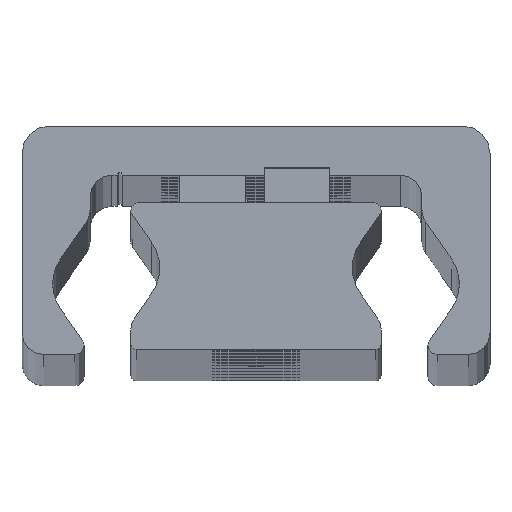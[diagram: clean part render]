
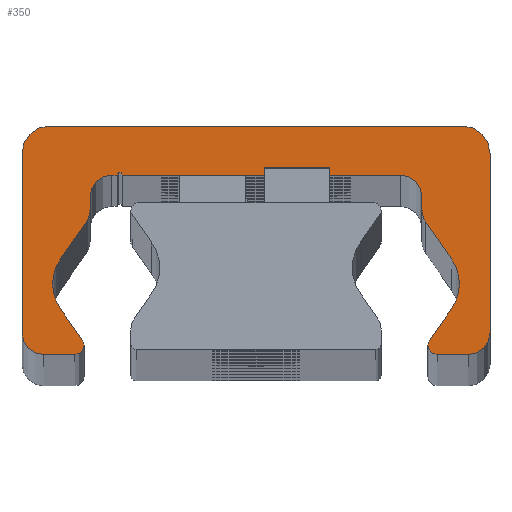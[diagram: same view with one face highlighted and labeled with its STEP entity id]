
A CAD part, top view. The second image highlights one B-rep face of the part: STEP entity #350.
In plain terms, the highlighted planar face has unit normal (0, 0, 1).
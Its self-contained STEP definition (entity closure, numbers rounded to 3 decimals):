
#350=ADVANCED_FACE('',(#1012),#1013,.T.);
#1012=FACE_OUTER_BOUND('',#1675,.T.);
#1013=PLANE('',#1676);
#1675=EDGE_LOOP('',(#3890,#3891,#3892,#3893,#3894,#3895,#3896,#3897,#3898,#3899,#3900,#3901,#3902,#3903,#3904,#3905,#3906,#3907,#3908,#3909,#3910,#3911,#3912,#3913,#3914,#3915,#3916,#3917,#3918,#3919));
#1676=AXIS2_PLACEMENT_3D('',#3920,#3921,#3922);
#3890=ORIENTED_EDGE('',*,*,#4349,.F.);
#3891=ORIENTED_EDGE('',*,*,#4662,.F.);
#3892=ORIENTED_EDGE('',*,*,#4335,.F.);
#3893=ORIENTED_EDGE('',*,*,#4661,.F.);
#3894=ORIENTED_EDGE('',*,*,#4657,.F.);
#3895=ORIENTED_EDGE('',*,*,#4654,.F.);
#3896=ORIENTED_EDGE('',*,*,#4651,.F.);
#3897=ORIENTED_EDGE('',*,*,#4648,.F.);
#3898=ORIENTED_EDGE('',*,*,#4645,.F.);
#3899=ORIENTED_EDGE('',*,*,#4642,.F.);
#3900=ORIENTED_EDGE('',*,*,#4639,.F.);
#3901=ORIENTED_EDGE('',*,*,#4636,.F.);
#3902=ORIENTED_EDGE('',*,*,#4633,.F.);
#3903=ORIENTED_EDGE('',*,*,#4630,.F.);
#3904=ORIENTED_EDGE('',*,*,#4341,.F.);
#3905=ORIENTED_EDGE('',*,*,#4628,.F.);
#3906=ORIENTED_EDGE('',*,*,#4343,.F.);
#3907=ORIENTED_EDGE('',*,*,#4627,.F.);
#3908=ORIENTED_EDGE('',*,*,#4623,.F.);
#3909=ORIENTED_EDGE('',*,*,#4620,.F.);
#3910=ORIENTED_EDGE('',*,*,#4617,.F.);
#3911=ORIENTED_EDGE('',*,*,#4614,.F.);
#3912=ORIENTED_EDGE('',*,*,#4611,.F.);
#3913=ORIENTED_EDGE('',*,*,#4608,.F.);
#3914=ORIENTED_EDGE('',*,*,#4605,.F.);
#3915=ORIENTED_EDGE('',*,*,#4602,.F.);
#3916=ORIENTED_EDGE('',*,*,#4599,.F.);
#3917=ORIENTED_EDGE('',*,*,#4596,.F.);
#3918=ORIENTED_EDGE('',*,*,#4593,.F.);
#3919=ORIENTED_EDGE('',*,*,#4590,.F.);
#3920=CARTESIAN_POINT('',(-0.023,14.187,807.0));
#3921=DIRECTION('',(0.0,0.0,1.0));
#3922=DIRECTION('',(1.0,0.0,0.0));
#4335=EDGE_CURVE('',#5266,#5269,#5270,.T.);
#4341=EDGE_CURVE('',#5279,#5275,#5281,.T.);
#4343=EDGE_CURVE('',#5282,#5285,#5286,.T.);
#4349=EDGE_CURVE('',#5295,#5291,#5297,.T.);
#4590=EDGE_CURVE('',#5291,#5684,#5685,.T.);
#4593=EDGE_CURVE('',#5684,#5689,#5690,.T.);
#4596=EDGE_CURVE('',#5689,#5694,#5695,.T.);
#4599=EDGE_CURVE('',#5694,#5699,#5700,.T.);
#4602=EDGE_CURVE('',#5699,#5704,#5705,.T.);
#4605=EDGE_CURVE('',#5704,#5709,#5710,.T.);
#4608=EDGE_CURVE('',#5709,#5714,#5715,.T.);
#4611=EDGE_CURVE('',#5714,#5719,#5720,.T.);
#4614=EDGE_CURVE('',#5719,#5724,#5725,.T.);
#4617=EDGE_CURVE('',#5724,#5729,#5730,.T.);
#4620=EDGE_CURVE('',#5729,#5734,#5735,.T.);
#4623=EDGE_CURVE('',#5734,#5739,#5740,.T.);
#4627=EDGE_CURVE('',#5739,#5282,#5745,.T.);
#4628=EDGE_CURVE('',#5285,#5279,#5746,.T.);
#4630=EDGE_CURVE('',#5275,#5748,#5749,.T.);
#4633=EDGE_CURVE('',#5748,#5753,#5754,.T.);
#4636=EDGE_CURVE('',#5753,#5758,#5759,.T.);
#4639=EDGE_CURVE('',#5758,#5763,#5764,.T.);
#4642=EDGE_CURVE('',#5763,#5768,#5769,.T.);
#4645=EDGE_CURVE('',#5768,#5773,#5774,.T.);
#4648=EDGE_CURVE('',#5773,#5778,#5779,.T.);
#4651=EDGE_CURVE('',#5778,#5783,#5784,.T.);
#4654=EDGE_CURVE('',#5783,#5788,#5789,.T.);
#4657=EDGE_CURVE('',#5788,#5793,#5794,.T.);
#4661=EDGE_CURVE('',#5793,#5266,#5799,.T.);
#4662=EDGE_CURVE('',#5269,#5295,#5800,.T.);
#5266=VERTEX_POINT('',#6590);
#5269=VERTEX_POINT('',#6594);
#5270=CIRCLE('',#6595,0.85);
#5275=VERTEX_POINT('',#6601);
#5279=VERTEX_POINT('',#6606);
#5281=CIRCLE('',#6609,0.85);
#5282=VERTEX_POINT('',#6610);
#5285=VERTEX_POINT('',#6614);
#5286=CIRCLE('',#6615,4.);
#5291=VERTEX_POINT('',#6621);
#5295=VERTEX_POINT('',#6626);
#5297=CIRCLE('',#6629,4.);
#5684=VERTEX_POINT('',#7126);
#5685=CIRCLE('',#7127,4.);
#5689=VERTEX_POINT('',#7132);
#5690=LINE('',#7133,#7134);
#5694=VERTEX_POINT('',#7140);
#5695=CIRCLE('',#7141,2.);
#5699=VERTEX_POINT('',#7146);
#5700=LINE('',#7147,#7148);
#5704=VERTEX_POINT('',#7154);
#5705=CIRCLE('',#7155,2.0);
#5709=VERTEX_POINT('',#7160);
#5710=LINE('',#7161,#7162);
#5714=VERTEX_POINT('',#7168);
#5715=CIRCLE('',#7169,0.25);
#5719=VERTEX_POINT('',#7174);
#5720=LINE('',#7175,#7176);
#5724=VERTEX_POINT('',#7182);
#5725=CIRCLE('',#7183,2.0);
#5729=VERTEX_POINT('',#7188);
#5730=LINE('',#7189,#7190);
#5734=VERTEX_POINT('',#7196);
#5735=CIRCLE('',#7197,2.0);
#5739=VERTEX_POINT('',#7202);
#5740=LINE('',#7203,#7204);
#5745=CIRCLE('',#7211,4.);
#5746=LINE('',#7212,#7213);
#5748=VERTEX_POINT('',#7216);
#5749=CIRCLE('',#7217,0.85);
#5753=VERTEX_POINT('',#7222);
#5754=LINE('',#7223,#7224);
#5758=VERTEX_POINT('',#7230);
#5759=CIRCLE('',#7231,2.);
#5763=VERTEX_POINT('',#7236);
#5764=LINE('',#7237,#7238);
#5768=VERTEX_POINT('',#7244);
#5769=CIRCLE('',#7245,2.5);
#5773=VERTEX_POINT('',#7250);
#5774=LINE('',#7251,#7252);
#5778=VERTEX_POINT('',#7258);
#5779=CIRCLE('',#7259,2.5);
#5783=VERTEX_POINT('',#7264);
#5784=LINE('',#7265,#7266);
#5788=VERTEX_POINT('',#7272);
#5789=CIRCLE('',#7273,2.);
#5793=VERTEX_POINT('',#7278);
#5794=LINE('',#7279,#7280);
#5799=CIRCLE('',#7287,0.85);
#5800=LINE('',#7288,#7289);
#6590=CARTESIAN_POINT('',(15.8,1.859,807.0));
#6594=CARTESIAN_POINT('',(15.922,2.298,807.0));
#6595=AXIS2_PLACEMENT_3D('',#8055,#8056,#8057);
#6601=CARTESIAN_POINT('',(-15.8,1.859,807.0));
#6606=CARTESIAN_POINT('',(-15.922,2.298,807.0));
#6609=AXIS2_PLACEMENT_3D('',#8067,#8068,#8069);
#6610=CARTESIAN_POINT('',(-18.688,7.509,807.0));
#6614=CARTESIAN_POINT('',(-17.964,5.214,807.0));
#6615=AXIS2_PLACEMENT_3D('',#8071,#8072,#8073);
#6621=CARTESIAN_POINT('',(18.688,7.509,807.0));
#6626=CARTESIAN_POINT('',(17.964,5.214,807.0));
#6629=AXIS2_PLACEMENT_3D('',#8083,#8084,#8085);
#7126=CARTESIAN_POINT('',(17.964,9.803,807.0));
#7127=AXIS2_PLACEMENT_3D('',#8586,#8587,#8588);
#7132=CARTESIAN_POINT('',(15.612,13.163,807.0));
#7133=CARTESIAN_POINT('',(15.612,13.163,807.0));
#7134=VECTOR('',#8593,1.0);
#7140=CARTESIAN_POINT('',(15.25,14.31,807.0));
#7141=AXIS2_PLACEMENT_3D('',#8596,#8597,#8598);
#7146=CARTESIAN_POINT('',(15.25,15.509,807.0));
#7147=CARTESIAN_POINT('',(15.25,15.509,807.0));
#7148=VECTOR('',#8603,1.0);
#7154=CARTESIAN_POINT('',(13.25,17.509,807.0));
#7155=AXIS2_PLACEMENT_3D('',#8606,#8607,#8608);
#7160=CARTESIAN_POINT('',(-12.25,17.509,807.0));
#7161=CARTESIAN_POINT('',(-12.25,17.509,807.0));
#7162=VECTOR('',#8613,1.0);
#7168=CARTESIAN_POINT('',(-12.75,17.509,807.0));
#7169=AXIS2_PLACEMENT_3D('',#8616,#8617,#8618);
#7174=CARTESIAN_POINT('',(-13.25,17.509,807.0));
#7175=CARTESIAN_POINT('',(-13.25,17.509,807.0));
#7176=VECTOR('',#8623,1.0);
#7182=CARTESIAN_POINT('',(-15.25,15.509,807.0));
#7183=AXIS2_PLACEMENT_3D('',#8626,#8627,#8628);
#7188=CARTESIAN_POINT('',(-15.25,14.31,807.0));
#7189=CARTESIAN_POINT('',(-15.25,14.31,807.0));
#7190=VECTOR('',#8633,1.0);
#7196=CARTESIAN_POINT('',(-15.612,13.163,807.0));
#7197=AXIS2_PLACEMENT_3D('',#8636,#8637,#8638);
#7202=CARTESIAN_POINT('',(-17.964,9.803,807.0));
#7203=CARTESIAN_POINT('',(-17.964,9.803,807.0));
#7204=VECTOR('',#8643,1.);
#7211=AXIS2_PLACEMENT_3D('',#8649,#8650,#8651);
#7212=CARTESIAN_POINT('',(-15.922,2.298,807.0));
#7213=VECTOR('',#8652,1.0);
#7216=CARTESIAN_POINT('',(-16.65,1.009,807.0));
#7217=AXIS2_PLACEMENT_3D('',#8654,#8655,#8656);
#7222=CARTESIAN_POINT('',(-19.5,1.009,807.0));
#7223=CARTESIAN_POINT('',(-19.5,1.009,807.0));
#7224=VECTOR('',#8661,1.0);
#7230=CARTESIAN_POINT('',(-21.5,3.009,807.0));
#7231=AXIS2_PLACEMENT_3D('',#8664,#8665,#8666);
#7236=CARTESIAN_POINT('',(-21.5,19.509,807.0));
#7237=CARTESIAN_POINT('',(-21.5,19.509,807.0));
#7238=VECTOR('',#8671,1.0);
#7244=CARTESIAN_POINT('',(-19.0,22.009,807.0));
#7245=AXIS2_PLACEMENT_3D('',#8674,#8675,#8676);
#7250=CARTESIAN_POINT('',(19.0,22.009,807.0));
#7251=CARTESIAN_POINT('',(19.0,22.009,807.0));
#7252=VECTOR('',#8681,1.0);
#7258=CARTESIAN_POINT('',(21.5,19.509,807.0));
#7259=AXIS2_PLACEMENT_3D('',#8684,#8685,#8686);
#7264=CARTESIAN_POINT('',(21.5,3.009,807.0));
#7265=CARTESIAN_POINT('',(21.5,3.009,807.0));
#7266=VECTOR('',#8691,1.0);
#7272=CARTESIAN_POINT('',(19.5,1.009,807.0));
#7273=AXIS2_PLACEMENT_3D('',#8694,#8695,#8696);
#7278=CARTESIAN_POINT('',(16.65,1.009,807.0));
#7279=CARTESIAN_POINT('',(16.65,1.009,807.0));
#7280=VECTOR('',#8701,1.0);
#7287=AXIS2_PLACEMENT_3D('',#8707,#8708,#8709);
#7288=CARTESIAN_POINT('',(17.964,5.214,807.0));
#7289=VECTOR('',#8710,1.0);
#8055=CARTESIAN_POINT('',(16.65,1.859,807.0));
#8056=DIRECTION('',(0.0,0.0,-1.0));
#8057=DIRECTION('',(1.0,0.0,0.0));
#8067=CARTESIAN_POINT('',(-16.65,1.859,807.0));
#8068=DIRECTION('',(0.0,0.0,-1.0));
#8069=DIRECTION('',(1.0,0.0,0.0));
#8071=CARTESIAN_POINT('',(-14.688,7.509,807.0));
#8072=DIRECTION('',(0.0,0.0,1.0));
#8073=DIRECTION('',(1.0,0.0,0.0));
#8083=CARTESIAN_POINT('',(14.688,7.509,807.0));
#8084=DIRECTION('',(0.0,0.0,1.0));
#8085=DIRECTION('',(1.0,0.0,0.0));
#8586=CARTESIAN_POINT('',(14.688,7.509,807.0));
#8587=DIRECTION('',(0.0,0.0,1.0));
#8588=DIRECTION('',(1.0,0.0,0.0));
#8593=DIRECTION('',(-0.574,0.819,0.0));
#8596=CARTESIAN_POINT('',(17.25,14.31,807.0));
#8597=DIRECTION('',(0.0,0.0,-1.0));
#8598=DIRECTION('',(1.0,0.0,0.0));
#8603=DIRECTION('',(0.0,1.0,0.0));
#8606=CARTESIAN_POINT('',(13.25,15.509,807.0));
#8607=DIRECTION('',(0.0,0.0,1.0));
#8608=DIRECTION('',(1.0,0.0,0.0));
#8613=DIRECTION('',(-1.0,-0.0,-0.0));
#8616=CARTESIAN_POINT('',(-12.5,17.509,807.0));
#8617=DIRECTION('',(0.0,0.0,1.0));
#8618=DIRECTION('',(1.0,0.0,0.0));
#8623=DIRECTION('',(-1.0,-0.0,-0.0));
#8626=CARTESIAN_POINT('',(-13.25,15.509,807.0));
#8627=DIRECTION('',(0.0,0.0,1.0));
#8628=DIRECTION('',(1.0,0.0,0.0));
#8633=DIRECTION('',(-0.0,-1.0,-0.0));
#8636=CARTESIAN_POINT('',(-17.25,14.31,807.0));
#8637=DIRECTION('',(0.0,0.0,-1.0));
#8638=DIRECTION('',(1.0,0.0,0.0));
#8643=DIRECTION('',(-0.574,-0.819,-0.0));
#8649=CARTESIAN_POINT('',(-14.688,7.509,807.0));
#8650=DIRECTION('',(0.0,0.0,1.0));
#8651=DIRECTION('',(1.0,0.0,0.0));
#8652=DIRECTION('',(0.574,-0.819,0.0));
#8654=CARTESIAN_POINT('',(-16.65,1.859,807.0));
#8655=DIRECTION('',(0.0,0.0,-1.0));
#8656=DIRECTION('',(1.0,0.0,0.0));
#8661=DIRECTION('',(-1.0,-0.0,-0.0));
#8664=CARTESIAN_POINT('',(-19.5,3.009,807.0));
#8665=DIRECTION('',(0.0,0.0,-1.0));
#8666=DIRECTION('',(1.0,0.0,0.0));
#8671=DIRECTION('',(0.0,1.0,0.0));
#8674=CARTESIAN_POINT('',(-19.0,19.509,807.0));
#8675=DIRECTION('',(0.0,0.0,-1.0));
#8676=DIRECTION('',(1.0,0.0,0.0));
#8681=DIRECTION('',(1.0,0.0,0.0));
#8684=CARTESIAN_POINT('',(19.0,19.509,807.0));
#8685=DIRECTION('',(0.0,0.0,-1.0));
#8686=DIRECTION('',(1.0,0.0,0.0));
#8691=DIRECTION('',(-0.0,-1.0,-0.0));
#8694=CARTESIAN_POINT('',(19.5,3.009,807.0));
#8695=DIRECTION('',(0.0,0.0,-1.0));
#8696=DIRECTION('',(1.0,0.0,0.0));
#8701=DIRECTION('',(-1.0,-0.0,-0.0));
#8707=CARTESIAN_POINT('',(16.65,1.859,807.0));
#8708=DIRECTION('',(0.0,0.0,-1.0));
#8709=DIRECTION('',(1.0,0.0,0.0));
#8710=DIRECTION('',(0.574,0.819,0.0));
